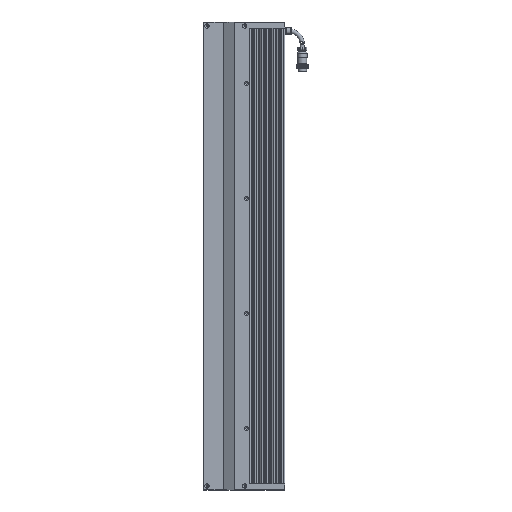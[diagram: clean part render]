
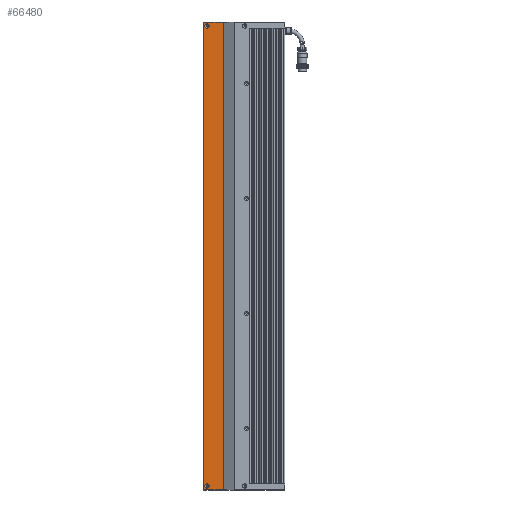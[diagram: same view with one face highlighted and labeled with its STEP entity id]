
A CAD part, left-side view. The second image highlights one B-rep face of the part: STEP entity #66480.
In plain terms, the highlighted planar face has unit normal (-1, 0, 0).
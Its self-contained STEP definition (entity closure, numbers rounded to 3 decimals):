
#40 = CARTESIAN_POINT ( 'NONE',  ( -15.462, 16.939, 805.5 ) ) ;
#167 = EDGE_CURVE ( 'NONE', #69184, #788, #71257, .T. ) ;
#788 = VERTEX_POINT ( 'NONE', #103877 ) ;
#5300 = EDGE_LOOP ( 'NONE', ( #25064 ) ) ;
#9795 = DIRECTION ( 'NONE',  ( 0., 0., 1. ) ) ;
#10097 = EDGE_CURVE ( 'NONE', #113877, #80792, #51672, .T. ) ;
#10614 = LINE ( 'NONE', #106002, #108244 ) ;
#12350 = PLANE ( 'NONE',  #35731 ) ;
#15543 = FACE_OUTER_BOUND ( 'NONE', #123978, .T. ) ;
#16462 = DIRECTION ( 'NONE',  ( 0., -1., 0. ) ) ;
#22958 = CARTESIAN_POINT ( 'NONE',  ( -15.462, -7.561, 809.5 ) ) ;
#25064 = ORIENTED_EDGE ( 'NONE', *, *, #40469, .F. ) ;
#25794 = VECTOR ( 'NONE', #16462, 1000. ) ;
#30322 = AXIS2_PLACEMENT_3D ( 'NONE', #64304, #45558, #36127 ) ;
#34032 = CARTESIAN_POINT ( 'NONE',  ( -15.462, 16.939, 808.65 ) ) ;
#35731 = AXIS2_PLACEMENT_3D ( 'NONE', #22958, #119614, #61730 ) ;
#36127 = DIRECTION ( 'NONE',  ( 0., 0., 1. ) ) ;
#39009 = CIRCLE ( 'NONE', #30322, 3.15 ) ;
#40469 = EDGE_CURVE ( 'NONE', #104003, #104003, #39009, .T. ) ;
#45558 = DIRECTION ( 'NONE',  ( -1., 0., 0. ) ) ;
#47715 = DIRECTION ( 'NONE',  ( -1., 0., 0. ) ) ;
#50854 = LINE ( 'NONE', #101891, #86063 ) ;
#51672 = LINE ( 'NONE', #64668, #25794 ) ;
#54113 = CARTESIAN_POINT ( 'NONE',  ( -15.462, -7.561, 120. ) ) ;
#56303 = AXIS2_PLACEMENT_3D ( 'NONE', #40, #47715, #9795 ) ;
#61730 = DIRECTION ( 'NONE',  ( 0., 0., -1. ) ) ;
#64304 = CARTESIAN_POINT ( 'NONE',  ( -15.462, 16.939, 125.5 ) ) ;
#64365 = ORIENTED_EDGE ( 'NONE', *, *, #83221, .F. ) ;
#64668 = CARTESIAN_POINT ( 'NONE',  ( -15.462, -7.561, 811. ) ) ;
#66480 = ADVANCED_FACE ( 'NONE', ( #93334, #90291, #15543 ), #12350, .F. ) ;
#68020 = ORIENTED_EDGE ( 'NONE', *, *, #10097, .F. ) ;
#68344 = ORIENTED_EDGE ( 'NONE', *, *, #117504, .F. ) ;
#69184 = VERTEX_POINT ( 'NONE', #86274 ) ;
#70838 = CARTESIAN_POINT ( 'NONE',  ( -15.462, 16.939, 128.65 ) ) ;
#71257 = LINE ( 'NONE', #54113, #113850 ) ;
#71706 = CARTESIAN_POINT ( 'NONE',  ( -15.462, -6.987, 811. ) ) ;
#72975 = CIRCLE ( 'NONE', #56303, 3.15 ) ;
#77957 = EDGE_LOOP ( 'NONE', ( #68344 ) ) ;
#80792 = VERTEX_POINT ( 'NONE', #71706 ) ;
#83221 = EDGE_CURVE ( 'NONE', #80792, #69184, #10614, .T. ) ;
#86063 = VECTOR ( 'NONE', #111640, 1000. ) ;
#86274 = CARTESIAN_POINT ( 'NONE',  ( -15.462, -6.987, 120. ) ) ;
#90291 = FACE_BOUND ( 'NONE', #77957, .T. ) ;
#91086 = EDGE_CURVE ( 'NONE', #788, #113877, #50854, .T. ) ;
#91108 = ORIENTED_EDGE ( 'NONE', *, *, #91086, .F. ) ;
#93334 = FACE_BOUND ( 'NONE', #5300, .T. ) ;
#101891 = CARTESIAN_POINT ( 'NONE',  ( -15.462, 21.439, 809.5 ) ) ;
#103877 = CARTESIAN_POINT ( 'NONE',  ( -15.462, 21.439, 120. ) ) ;
#104003 = VERTEX_POINT ( 'NONE', #70838 ) ;
#106002 = CARTESIAN_POINT ( 'NONE',  ( -15.462, -6.987, 809.5 ) ) ;
#108244 = VECTOR ( 'NONE', #116937, 1000. ) ;
#111640 = DIRECTION ( 'NONE',  ( 0., 0., 1. ) ) ;
#111677 = DIRECTION ( 'NONE',  ( 0., 1., 0. ) ) ;
#112888 = VERTEX_POINT ( 'NONE', #34032 ) ;
#113850 = VECTOR ( 'NONE', #111677, 1000. ) ;
#113877 = VERTEX_POINT ( 'NONE', #116055 ) ;
#116055 = CARTESIAN_POINT ( 'NONE',  ( -15.462, 21.439, 811. ) ) ;
#116937 = DIRECTION ( 'NONE',  ( 0., 0., -1. ) ) ;
#117504 = EDGE_CURVE ( 'NONE', #112888, #112888, #72975, .T. ) ;
#119614 = DIRECTION ( 'NONE',  ( 1., 0., 0. ) ) ;
#120399 = ORIENTED_EDGE ( 'NONE', *, *, #167, .F. ) ;
#123978 = EDGE_LOOP ( 'NONE', ( #91108, #120399, #64365, #68020 ) ) ;
